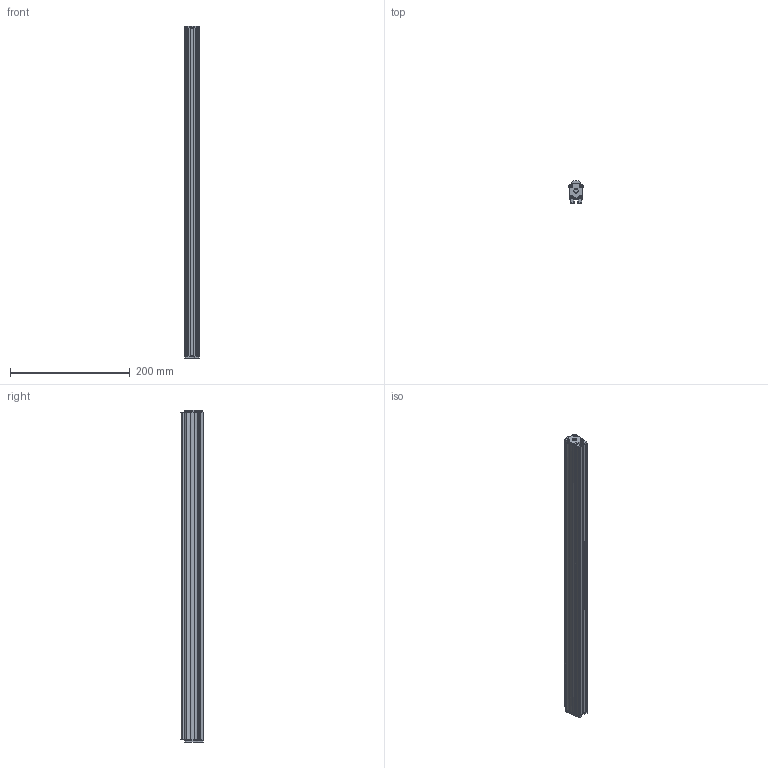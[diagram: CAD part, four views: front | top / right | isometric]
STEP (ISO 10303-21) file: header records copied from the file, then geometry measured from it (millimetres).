
FILE_DESCRIPTION(('STEP AP214'),'1');
FILE_NAME('lin+op 526.stp','2021-02-15T14:46:32',('Blanc'),('Phlox'),'Spatial InterOp 3D',' ',' ');
FILE_SCHEMA(('AUTOMOTIVE_DESIGN { 1 0 10303 214 1 1 1 1 }'));
Length unit declared in the file: inch
Products named in the file (1): Pièce_83634808
Bounding box: 24.54 x 37.28 x 553.99 mm (x, y, z)
Volume: 202611.7 mm3; surface area: 167039 mm2
Topology: 6 solids, 6 shells, 380 faces, 1090 edges, 718 vertices
Faces by surface type: cylinder 211, plane 103, bspline 36, cone 16, extrusion 14
Entity records: 25927 total; most frequent: CARTESIAN_POINT 7941, ORIENTED_EDGE 2180, DIRECTION 2086, STYLED_ITEM 1345, PRESENTATION_STYLE_ASSIGNMENT 1345, COLOUR_RGB 1345, EDGE_CURVE 1090, CURVE_STYLE 959
